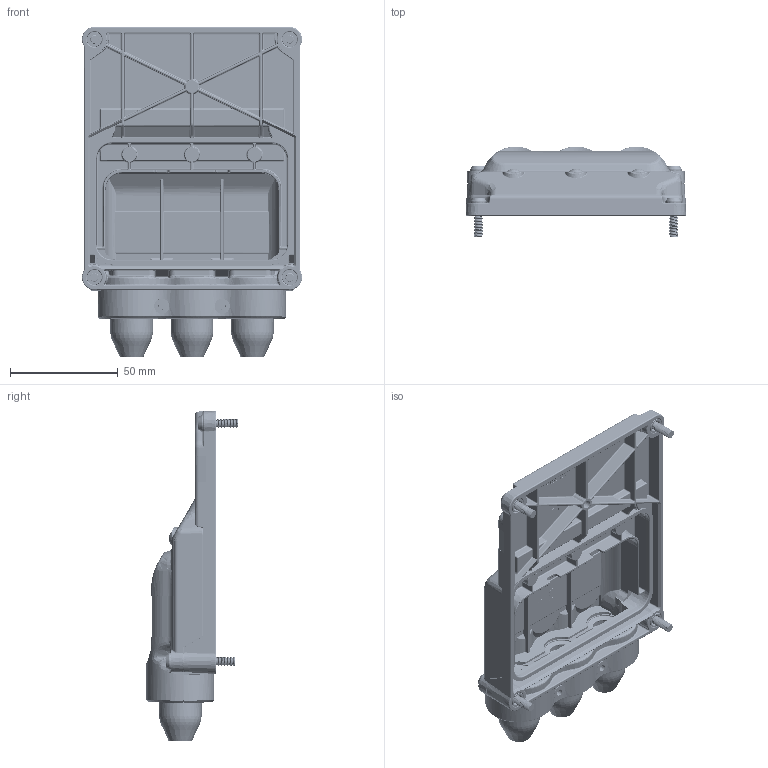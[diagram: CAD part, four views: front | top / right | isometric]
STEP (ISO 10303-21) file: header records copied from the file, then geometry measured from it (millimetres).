
FILE_DESCRIPTION (( 'STEP AP214' ), '1' );
FILE_NAME ('2019-103-003.STEP', '2024-02-15T09:58:36', ( '' ), ( '' ), 'SwSTEP 2.0', 'SolidWorks 2021', '' );
FILE_SCHEMA (( 'AUTOMOTIVE_DESIGN' ));
Length unit declared in the file: millimetre
Products named in the file (12): 920A-004-015; 2019-103-105; 2019-103-101; 2019-103-005; 910M-004-010; 2019-103-103; 2019-103-102; 2019-103-007; 2019-103-003; 920A-004-006; 910N-004-030; 910N-004-016
Assembly tree (21 placements, depth 3):
  2019-103-003
    2019-103-007
      2019-103-105
      920A-004-006  x2
      920A-004-015  x2
    2019-103-005
      2019-103-101
      920A-004-006  x2
    2019-103-102
    2019-103-103
    910N-004-016  x2
    910M-004-010  x5
    910N-004-030  x2
Bounding box: 102.05 x 42.27 x 153.03 mm (x, y, z)
Volume: 110346.3 mm3; surface area: 101902.7 mm2
Topology: 19 solids, 19 shells, 4267 faces, 10681 edges, 6485 vertices
Faces by surface type: plane 1180, cylinder 1174, bspline 1075, cone 297, sphere 278, torus 263
Full cylindrical faces by diameter (mm): 0.482 x1, 0.832 x2, 3.908 x6, 4 x7, 7 x5, 7.6 x4, 11 x15, 15.8 x6, 16 x9, 17.8 x3, 19.7 x3
Entity records: 174853 total; most frequent: CARTESIAN_POINT 89353, ORIENTED_EDGE 19342, DIRECTION 15543, EDGE_CURVE 9671, VERTEX_POINT 5930, AXIS2_PLACEMENT_3D 5813, EDGE_LOOP 4411, FACE_OUTER_BOUND 4201
